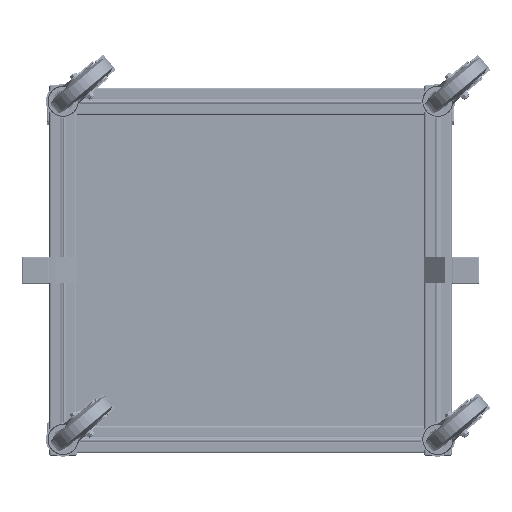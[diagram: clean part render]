
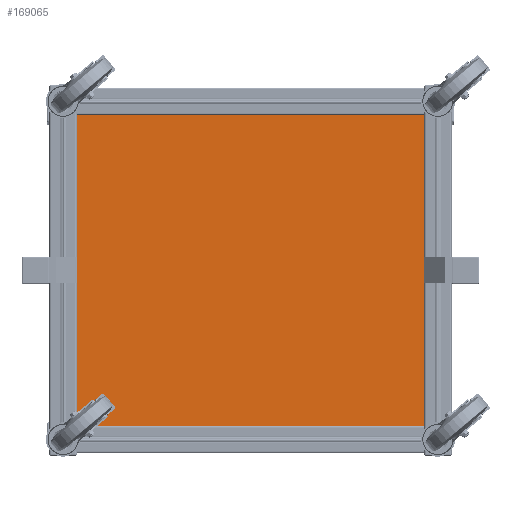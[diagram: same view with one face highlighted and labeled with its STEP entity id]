
A CAD part, front view. The second image highlights one B-rep face of the part: STEP entity #169065.
In plain terms, the highlighted planar face has unit normal (0, -1, 0).
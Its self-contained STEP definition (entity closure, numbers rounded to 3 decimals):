
#2247 = AXIS2_PLACEMENT_3D ( 'NONE', #2939, #168225, #183857 ) ;
#2939 = CARTESIAN_POINT ( 'NONE',  ( 0., 0., 0. ) ) ;
#17136 = CARTESIAN_POINT ( 'NONE',  ( -295., 0., 265. ) ) ;
#17459 = DIRECTION ( 'NONE',  ( -1., 0., 0. ) ) ;
#17642 = FACE_OUTER_BOUND ( 'NONE', #95420, .T. ) ;
#23994 = DIRECTION ( 'NONE',  ( 1., 0., 0. ) ) ;
#27580 = ORIENTED_EDGE ( 'NONE', *, *, #107222, .F. ) ;
#31750 = VECTOR ( 'NONE', #81751, 1000. ) ;
#34037 = LINE ( 'NONE', #79069, #160883 ) ;
#40139 = CARTESIAN_POINT ( 'NONE',  ( -295., 0., -265. ) ) ;
#42447 = CARTESIAN_POINT ( 'NONE',  ( 295., 0., 265. ) ) ;
#48521 = CARTESIAN_POINT ( 'NONE',  ( 295., 0., -265. ) ) ;
#48791 = EDGE_CURVE ( 'NONE', #78699, #51928, #34037, .T. ) ;
#51928 = VERTEX_POINT ( 'NONE', #40139 ) ;
#52324 = LINE ( 'NONE', #157930, #68976 ) ;
#68976 = VECTOR ( 'NONE', #23994, 1000. ) ;
#69898 = EDGE_CURVE ( 'NONE', #153826, #78699, #110093, .T. ) ;
#76388 = PLANE ( 'NONE',  #2247 ) ;
#77320 = VECTOR ( 'NONE', #147377, 1000. ) ;
#78699 = VERTEX_POINT ( 'NONE', #114644 ) ;
#79069 = CARTESIAN_POINT ( 'NONE',  ( -295., 0., -265. ) ) ;
#81751 = DIRECTION ( 'NONE',  ( 0., 0., -1. ) ) ;
#95420 = EDGE_LOOP ( 'NONE', ( #130608, #105784, #27580, #163851 ) ) ;
#105784 = ORIENTED_EDGE ( 'NONE', *, *, #141067, .F. ) ;
#107222 = EDGE_CURVE ( 'NONE', #51928, #139627, #180621, .T. ) ;
#110093 = LINE ( 'NONE', #48521, #31750 ) ;
#114644 = CARTESIAN_POINT ( 'NONE',  ( 295., 0., -265. ) ) ;
#130608 = ORIENTED_EDGE ( 'NONE', *, *, #69898, .F. ) ;
#139627 = VERTEX_POINT ( 'NONE', #17136 ) ;
#141067 = EDGE_CURVE ( 'NONE', #139627, #153826, #52324, .T. ) ;
#147377 = DIRECTION ( 'NONE',  ( 0., 0., 1. ) ) ;
#153826 = VERTEX_POINT ( 'NONE', #42447 ) ;
#157930 = CARTESIAN_POINT ( 'NONE',  ( -295., 0., 265. ) ) ;
#160883 = VECTOR ( 'NONE', #17459, 1000. ) ;
#163851 = ORIENTED_EDGE ( 'NONE', *, *, #48791, .F. ) ;
#168225 = DIRECTION ( 'NONE',  ( 0., 1., 0. ) ) ;
#169065 = ADVANCED_FACE ( 'NONE', ( #17642 ), #76388, .F. ) ;
#180621 = LINE ( 'NONE', #192456, #77320 ) ;
#183857 = DIRECTION ( 'NONE',  ( 0., 0., 1. ) ) ;
#192456 = CARTESIAN_POINT ( 'NONE',  ( -295., 0., -265. ) ) ;
